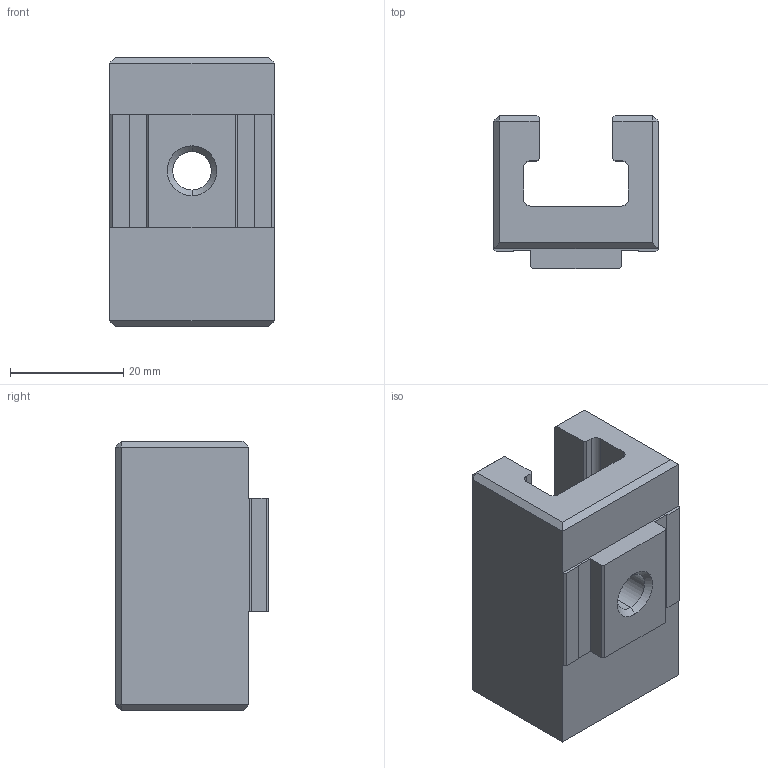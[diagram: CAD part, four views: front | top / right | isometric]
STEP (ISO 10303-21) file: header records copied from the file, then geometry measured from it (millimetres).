
FILE_DESCRIPTION (( 'STEP AP214' ), '1' );
FILE_NAME ('DEV-BR-AJC06S.STEP', '2024-08-07T05:37:53', ( '' ), ( '' ), 'SwSTEP 2.0', 'SolidWorks 2022', '' );
FILE_SCHEMA (( 'AUTOMOTIVE_DESIGN' ));
Length unit declared in the file: millimetre
Products named in the file (1): DEV-BR-AJC06S
Bounding box: 29 x 27 x 47.5 mm (x, y, z)
Volume: 20766.4 mm3; surface area: 8047.2 mm2
Topology: 1 solids, 1 shells, 68 faces, 178 edges, 112 vertices
Faces by surface type: plane 52, cylinder 12, cone 2, torus 2
Entity records: 2130 total; most frequent: CARTESIAN_POINT 391, ORIENTED_EDGE 356, DIRECTION 338, EDGE_CURVE 178, LINE 144, VECTOR 144, VERTEX_POINT 112, AXIS2_PLACEMENT_3D 97
